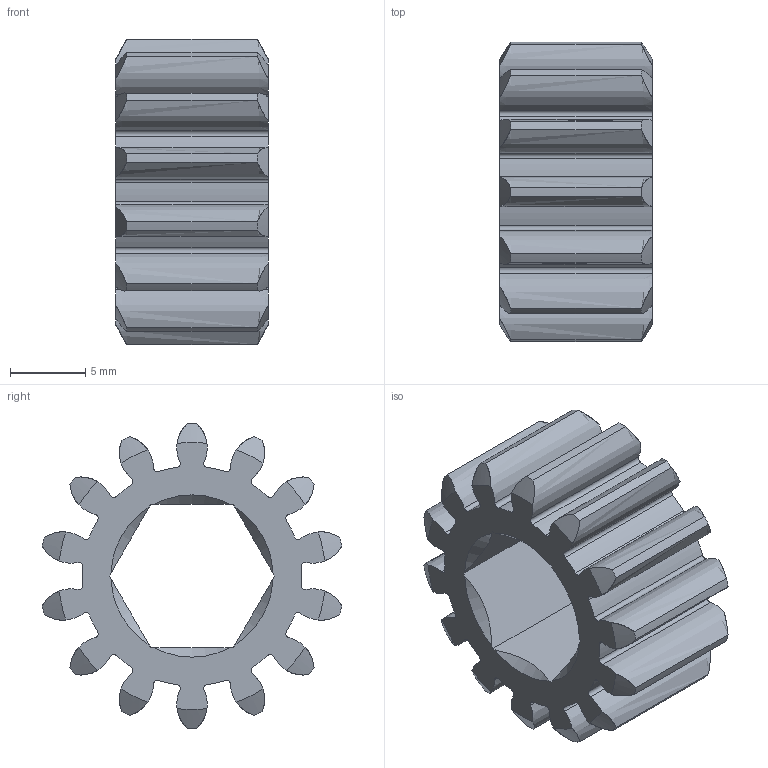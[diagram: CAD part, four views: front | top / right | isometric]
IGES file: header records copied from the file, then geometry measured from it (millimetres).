
Global section: file name: No Iges File Name specified; native system: AutoDesk Inventor R6.0; preprocessor: AutoDesk Inventor Iges Exporter R6.0; author: No Author specified; organization: No Organization specified; date: 20080103.192206; units: inch
Bounding box: 10.16 x 19.94 x 20.32 mm (x, y, z)
Surface area: 1791.6 mm2 (no closed solid volume)
Topology: 0 solids, 0 shells, 132 faces, 804 edges, 804 vertices
Faces by surface type: revolution 124, plane 8
